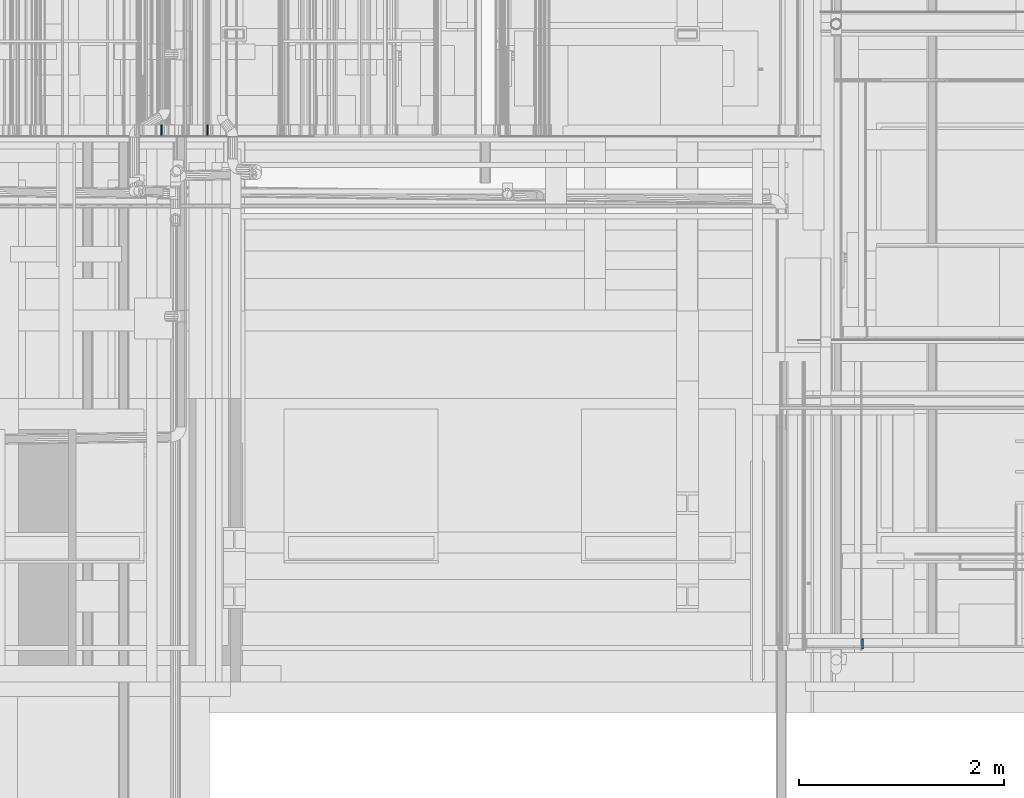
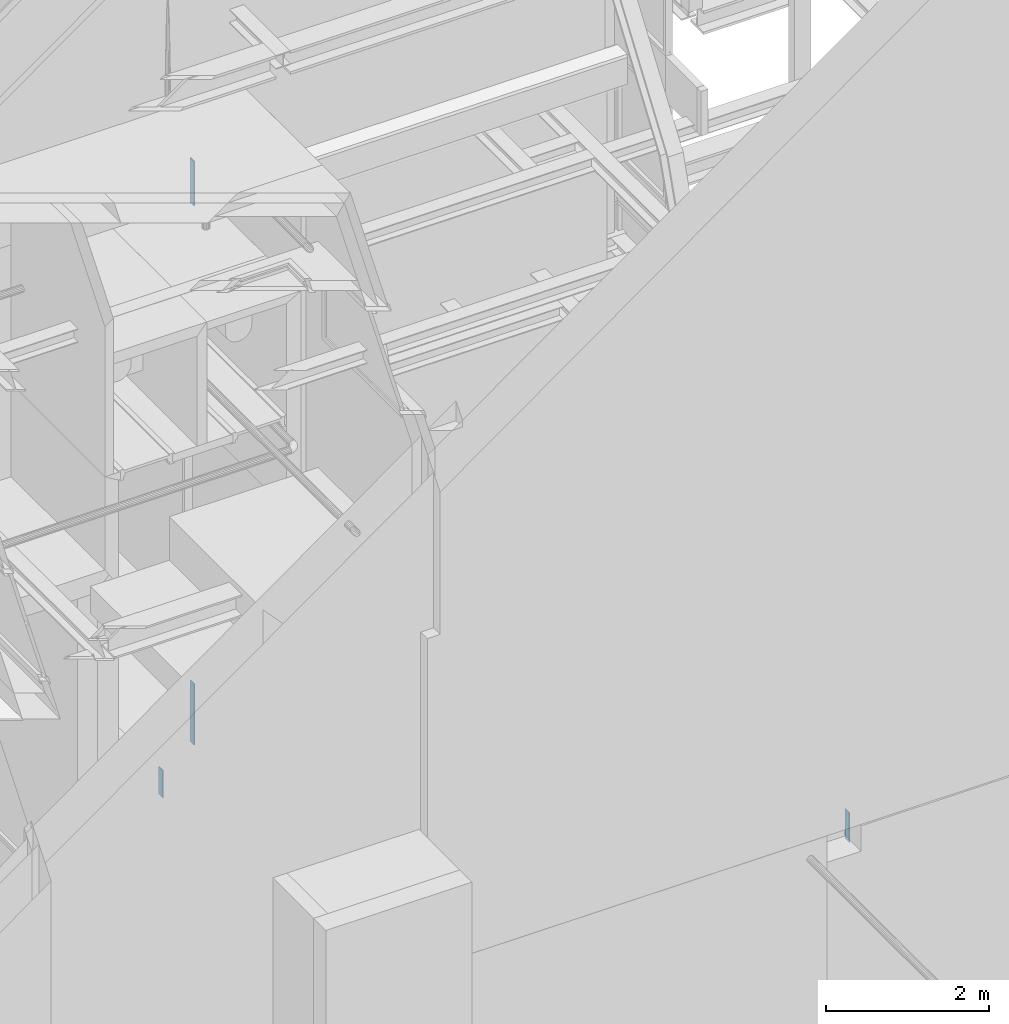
# One storey, part 183 of 583: 5 building element parts, 3 elements without a shape of their own.
"""IFC2X3 building model written with IfcOpenShell, lengths in metres."""

from ifc_helpers import new_model, entity, si_unit, converted_unit, derived_unit, money_unit, direction, frame, frame_2d, origin_with_axes, place, context, subcontext, project, spatial, polyline, rectangle, outline, extrude, material, type_object, element, aggregate, save


model = new_model("IFC2X3")

# Units and contexts
model_context = context("Model", 3, precision=1e-05, world=origin_with_axes(), true_north=direction((0.0, 1.0)))
body_context = subcontext(model_context, "Body", "Model", "MODEL_VIEW", scale=1.0)
ifc_project = project(units=[si_unit("LENGTHUNIT", "METRE"), si_unit("AREAUNIT", "SQUARE_METRE"), si_unit("VOLUMEUNIT", "CUBIC_METRE"), si_unit("ABSORBEDDOSEUNIT", "GRAY"), si_unit("AMOUNTOFSUBSTANCEUNIT", "MOLE"), si_unit("DOSEEQUIVALENTUNIT", "SIEVERT"), si_unit("ELECTRICCAPACITANCEUNIT", "FARAD"), si_unit("ELECTRICCHARGEUNIT", "COULOMB"), si_unit("ELECTRICCONDUCTANCEUNIT", "SIEMENS"), si_unit("ELECTRICCURRENTUNIT", "AMPERE"), si_unit("ELECTRICRESISTANCEUNIT", "OHM"), si_unit("ELECTRICVOLTAGEUNIT", "VOLT"), si_unit("ENERGYUNIT", "JOULE"), si_unit("FORCEUNIT", "NEWTON"), si_unit("FREQUENCYUNIT", "HERTZ"), si_unit("ILLUMINANCEUNIT", "LUX"), si_unit("INDUCTANCEUNIT", "HENRY"), si_unit("LUMINOUSFLUXUNIT", "LUMEN"), si_unit("LUMINOUSINTENSITYUNIT", "CANDELA"), si_unit("MAGNETICFLUXDENSITYUNIT", "TESLA"), si_unit("MAGNETICFLUXUNIT", "WEBER"), si_unit("MASSUNIT", "GRAM"), converted_unit("PLANEANGLEUNIT", "degree", entity("IfcReal", 0.0174532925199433), si_unit("PLANEANGLEUNIT", "RADIAN"), dimensions=[0, 0, 0, 0, 0, 0, 0]), si_unit("POWERUNIT", "WATT"), si_unit("PRESSUREUNIT", "PASCAL"), si_unit("RADIOACTIVITYUNIT", "BECQUEREL"), si_unit("SOLIDANGLEUNIT", "STERADIAN"), si_unit("THERMODYNAMICTEMPERATUREUNIT", "KELVIN"), si_unit("TIMEUNIT", "SECOND"), derived_unit("ACCELERATIONUNIT", [(si_unit("LENGTHUNIT", "METRE"), 1), (si_unit("TIMEUNIT", "SECOND"), -2)]), derived_unit("ANGULARVELOCITYUNIT", [(converted_unit("PLANEANGLEUNIT", "degree", entity("IfcReal", 0.0174532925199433), si_unit("PLANEANGLEUNIT", "RADIAN"), dimensions=[0, 0, 0, 0, 0, 0, 0]), 1), (si_unit("TIMEUNIT", "SECOND"), -1)]), derived_unit("CURVATUREUNIT", [(converted_unit("PLANEANGLEUNIT", "degree", entity("IfcReal", 0.0174532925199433), si_unit("PLANEANGLEUNIT", "RADIAN"), dimensions=[0, 0, 0, 0, 0, 0, 0]), 1), (si_unit("LENGTHUNIT", "METRE"), -1)]), derived_unit("DYNAMICVISCOSITYUNIT", [(si_unit("PRESSUREUNIT", "PASCAL"), 1), (si_unit("TIMEUNIT", "SECOND"), 1)]), derived_unit("HEATFLUXDENSITYUNIT", [(si_unit("POWERUNIT", "WATT"), 1), (si_unit("LENGTHUNIT", "METRE"), -2)]), derived_unit("HEATINGVALUEUNIT", [(si_unit("ENERGYUNIT", "JOULE"), 1), (si_unit("MASSUNIT", "GRAM"), -1)]), derived_unit("INTEGERCOUNTRATEUNIT", [(si_unit("TIMEUNIT", "SECOND"), -1)]), derived_unit("IONCONCENTRATIONUNIT", [(si_unit("MASSUNIT", "GRAM"), 1), (si_unit("VOLUMEUNIT", "CUBIC_METRE"), -1)]), derived_unit("ISOTHERMALMOISTURECAPACITYUNIT", [(si_unit("VOLUMEUNIT", "CUBIC_METRE"), 1), (si_unit("MASSUNIT", "GRAM"), -1)]), derived_unit("KINEMATICVISCOSITYUNIT", [(si_unit("AREAUNIT", "SQUARE_METRE"), 1), (si_unit("TIMEUNIT", "SECOND"), -1)]), derived_unit("LINEARFORCEUNIT", [(si_unit("FORCEUNIT", "NEWTON"), 1), (si_unit("LENGTHUNIT", "METRE"), -1)]), derived_unit("LINEARMOMENTUNIT", [(si_unit("FORCEUNIT", "NEWTON"), 1), (si_unit("LENGTHUNIT", "METRE"), -1)]), derived_unit("LINEARSTIFFNESSUNIT", [(si_unit("FORCEUNIT", "NEWTON"), 1), (si_unit("LENGTHUNIT", "METRE"), -1)]), derived_unit("LINEARVELOCITYUNIT", [(si_unit("LENGTHUNIT", "METRE"), 1), (si_unit("TIMEUNIT", "SECOND"), -1)]), derived_unit("LUMINOUSINTENSITYDISTRIBUTIONUNIT", [(si_unit("LUMINOUSINTENSITYUNIT", "CANDELA"), 1), (si_unit("LUMINOUSFLUXUNIT", "LUMEN"), -1)]), derived_unit("MASSDENSITYUNIT", [(si_unit("MASSUNIT", "GRAM"), 1), (si_unit("VOLUMEUNIT", "CUBIC_METRE"), -1)]), derived_unit("MASSFLOWRATEUNIT", [(si_unit("MASSUNIT", "GRAM"), 1), (si_unit("TIMEUNIT", "SECOND"), -1)]), derived_unit("MASSPERLENGTHUNIT", [(si_unit("MASSUNIT", "GRAM"), 1), (si_unit("LENGTHUNIT", "METRE"), -1)]), derived_unit("MODULUSOFELASTICITYUNIT", [(si_unit("FORCEUNIT", "NEWTON"), 1), (si_unit("AREAUNIT", "SQUARE_METRE"), -1)]), derived_unit("MODULUSOFLINEARSUBGRADEREACTIONUNIT", [(si_unit("FORCEUNIT", "NEWTON"), 1), (si_unit("LENGTHUNIT", "METRE"), -2)]), derived_unit("MODULUSOFROTATIONALSUBGRADEREACTIONUNIT", [(si_unit("FORCEUNIT", "NEWTON"), 1), (si_unit("LENGTHUNIT", "METRE"), 1)]), derived_unit("MODULUSOFSUBGRADEREACTIONUNIT", [(si_unit("FORCEUNIT", "NEWTON"), 1), (si_unit("VOLUMEUNIT", "CUBIC_METRE"), -1)]), derived_unit("MOISTUREDIFFUSIVITYUNIT", [(si_unit("VOLUMEUNIT", "CUBIC_METRE"), 1), (si_unit("TIMEUNIT", "SECOND"), -1)]), derived_unit("MOLECULARWEIGHTUNIT", [(si_unit("MASSUNIT", "GRAM"), 1), (si_unit("AMOUNTOFSUBSTANCEUNIT", "MOLE"), -1)]), derived_unit("PLANARFORCEUNIT", [(si_unit("FORCEUNIT", "NEWTON"), 1), (si_unit("LENGTHUNIT", "METRE"), -2)]), derived_unit("ROTATIONALFREQUENCYUNIT", [(si_unit("TIMEUNIT", "SECOND"), -1)]), derived_unit("ROTATIONALMASSUNIT", [(si_unit("MASSUNIT", "GRAM"), 1), (si_unit("LENGTHUNIT", "METRE"), 2)]), derived_unit("ROTATIONALSTIFFNESSUNIT", [(si_unit("FORCEUNIT", "NEWTON"), 1), (si_unit("LENGTHUNIT", "METRE"), 1), (converted_unit("PLANEANGLEUNIT", "degree", entity("IfcReal", 0.0174532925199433), si_unit("PLANEANGLEUNIT", "RADIAN"), dimensions=[0, 0, 0, 0, 0, 0, 0]), -1)]), derived_unit("SECTIONAREAINTEGRALUNIT", [(si_unit("LENGTHUNIT", "METRE"), 5)]), derived_unit("SECTIONMODULUSUNIT", [(si_unit("LENGTHUNIT", "METRE"), 3)]), derived_unit("SHEARMODULUSUNIT", [(si_unit("FORCEUNIT", "NEWTON"), 1), (si_unit("AREAUNIT", "SQUARE_METRE"), -1)]), derived_unit("SOUNDPOWERUNIT", [(si_unit("ENERGYUNIT", "JOULE"), 1), (si_unit("TIMEUNIT", "SECOND"), -1)]), derived_unit("SPECIFICHEATCAPACITYUNIT", [(si_unit("FORCEUNIT", "NEWTON"), 1), (si_unit("MASSUNIT", "GRAM"), -1), (si_unit("THERMODYNAMICTEMPERATUREUNIT", "KELVIN"), -1)]), derived_unit("TEMPERATUREGRADIENTUNIT", [(si_unit("THERMODYNAMICTEMPERATUREUNIT", "KELVIN"), 1), (si_unit("LENGTHUNIT", "METRE"), -1)]), derived_unit("THERMALADMITTANCEUNIT", [(si_unit("POWERUNIT", "WATT"), 1), (si_unit("AREAUNIT", "SQUARE_METRE"), -1), (si_unit("THERMODYNAMICTEMPERATUREUNIT", "KELVIN"), -1)]), derived_unit("THERMALCONDUCTANCEUNIT", [(si_unit("POWERUNIT", "WATT"), 1), (si_unit("LENGTHUNIT", "METRE"), -1), (si_unit("THERMODYNAMICTEMPERATUREUNIT", "KELVIN"), -1)]), derived_unit("THERMALEXPANSIONCOEFFICIENTUNIT", [(si_unit("THERMODYNAMICTEMPERATUREUNIT", "KELVIN"), -1)]), derived_unit("THERMALRESISTANCEUNIT", [(si_unit("AREAUNIT", "SQUARE_METRE"), 1), (si_unit("POWERUNIT", "WATT"), -1)]), derived_unit("THERMALTRANSMITTANCEUNIT", [(si_unit("POWERUNIT", "WATT"), 1), (si_unit("AREAUNIT", "SQUARE_METRE"), -1), (si_unit("THERMODYNAMICTEMPERATUREUNIT", "KELVIN"), -1)]), derived_unit("TORQUEUNIT", [(si_unit("FORCEUNIT", "NEWTON"), 1), (si_unit("LENGTHUNIT", "METRE"), 1)]), derived_unit("VAPORPERMEABILITYUNIT", [(si_unit("MASSUNIT", "GRAM"), 1), (si_unit("TIMEUNIT", "SECOND"), -1)]), derived_unit("VOLUMETRICFLOWRATEUNIT", [(si_unit("VOLUMEUNIT", "CUBIC_METRE"), 1), (si_unit("TIMEUNIT", "SECOND"), -1)]), derived_unit("WARPINGCONSTANTUNIT", [(si_unit("LENGTHUNIT", "METRE"), 6)]), derived_unit("WARPINGMOMENTUNIT", [(si_unit("FORCEUNIT", "NEWTON"), 1), (si_unit("LENGTHUNIT", "METRE"), 2)]), money_unit("GBP")], contexts=[model_context])

# Site, building, storey
site_placement = place(None, origin_with_axes())
site = spatial("IfcSite", under=ifc_project, at=site_placement, Name="Site", CompositionType="ELEMENT")
building_placement = place(site_placement, origin_with_axes())
building = spatial("IfcBuilding", under=site, at=building_placement, Name="Building01", CompositionType="ELEMENT")
storey_placement = place(building_placement, frame((0.0, 0.0, 20.78), z_axis=(0.0, 0.0, 1.0), x_axis=(1.0, 0.0, 0.0)))
storey = spatial("IfcBuildingStorey", under=building, at=storey_placement, Name="RL", CompositionType="ELEMENT", Elevation=20.78)

# Wall, building element part
wall_type_1 = type_object("IfcWallType", Name="SHE_A-Walls_Type06c_ExternalWallInsulation_60mm", PredefinedType="NOTDEFINED")
wall_1_placement = place(storey_placement, frame((15.127892, 0.148, -12.074709), z_axis=(0.0, 1.0, 0.0), x_axis=(0.0, 0.0, 1.0)))
wall_1 = element("IfcWall", 1, at=wall_1_placement, inside=storey, type_object=wall_type_1, Name="6C", ObjectType="SHE_A-Walls_Type06c_ExternalWallInsulation_60mm")
ifc_material = material(Name="A_BSUK_Walls_Timber")
building_element_part_1_placement = place(wall_1_placement, origin_with_axes())
building_element_part_1 = element("IfcBuildingElementPart", 2, at=building_element_part_1_placement, material=ifc_material, Name="2", context=body_context, shape_type="SweptSolid", body=[
    extrude(outline(polyline([(0.361974, 0.087), (-0.087, 0.087), (-0.072, 0.072), (0.376974, 0.072), (0.361974, 0.087)])), frame((0.0, 0.0, 0.015), z_axis=(0.0, 0.0, 1.0), x_axis=(1.0, 0.0, 0.0)), (0.0, 0.0, 1.0), 0.1),
])
aggregate(wall_1, [building_element_part_1])

wall_type_2 = type_object("IfcWallType", Name="SHE_A-Walls_Type04c_RiserWall_102mm_tall", PredefinedType="NOTDEFINED")
wall_2_placement = place(storey_placement, frame((8.372405, 5.165, -12.122), z_axis=(0.0, 1.0, 0.0), x_axis=(0.0, 0.0, 1.0)))
wall_2 = element("IfcWall", 3, at=wall_2_placement, inside=storey, type_object=wall_type_2, Name="4C", ObjectType="SHE_A-Walls_Type04c_RiserWall_102mm_tall")
building_element_part_2_placement = place(wall_2_placement, origin_with_axes())
building_element_part_2 = element("IfcBuildingElementPart", 4, at=building_element_part_2_placement, material=ifc_material, Name="1", context=body_context, shape_type="SweptSolid", body=[
    extrude(outline(polyline([(0.402, 0.015), (-0.015, 0.015), (0.0, 0.0), (0.402, 0.0), (0.402, 0.015)])), origin_with_axes(), (0.0, 0.0, 1.0), 0.1),
])
aggregate(wall_2, [building_element_part_2])

# Wall, building element parts
wall_type_3 = type_object("IfcWallType", Name="SHE_A-Walls_Type03a_BlockworkWall_170mm", PredefinedType="NOTDEFINED")
wall_3_placement = place(storey_placement, frame((8.805, 5.15, -2.795), z_axis=(0.0, 1.0, 0.0), x_axis=(0.0, 0.0, -1.0)))
wall_3 = element("IfcWall", 5, at=wall_3_placement, inside=storey, type_object=wall_type_3, Name="4B", ObjectType="SHE_A-Walls_Type03a_BlockworkWall_170mm")
placement = place(wall_3_placement, origin_with_axes())
building_element_part_3 = element("IfcBuildingElementPart", 6, at=placement, material=ifc_material, Name="5", context=body_context, shape_type="SweptSolid", body=[
    extrude(rectangle(XDim=0.015, YDim=0.015, at=frame_2d((-0.0225, -0.0225), x_axis=(-1.0, 0.0))), frame((0.0, 0.0, 0.015), z_axis=(0.0, 0.0, 1.0), x_axis=(1.0, 0.0, 0.0)), (0.0, 0.0, 1.0), 0.1),
])
building_element_part_4 = element("IfcBuildingElementPart", 7, at=placement, material=ifc_material, Name="9", context=body_context, shape_type="SweptSolid", body=[
    extrude(rectangle(XDim=0.651868, YDim=0.015, at=frame_2d((0.310934, -0.0225), x_axis=(-1.0, 0.0))), frame((0.0, 0.0, 0.015), z_axis=(0.0, 0.0, 1.0), x_axis=(1.0, 0.0, 0.0)), (0.0, 0.0, 1.0), 0.1),
])
building_element_part_5 = element("IfcBuildingElementPart", 8, at=placement, material=ifc_material, Name="10", context=body_context, shape_type="SweptSolid", body=[
    extrude(rectangle(XDim=0.908871, YDim=0.015, at=frame_2d((8.245565, -0.0225), x_axis=(-1.0, 0.0))), frame((0.0, 0.0, 0.015), z_axis=(0.0, 0.0, 1.0), x_axis=(1.0, 0.0, 0.0)), (0.0, 0.0, 1.0), 0.1),
])
aggregate(wall_3, [building_element_part_3, building_element_part_4, building_element_part_5])

save(model, "model.ifc")
